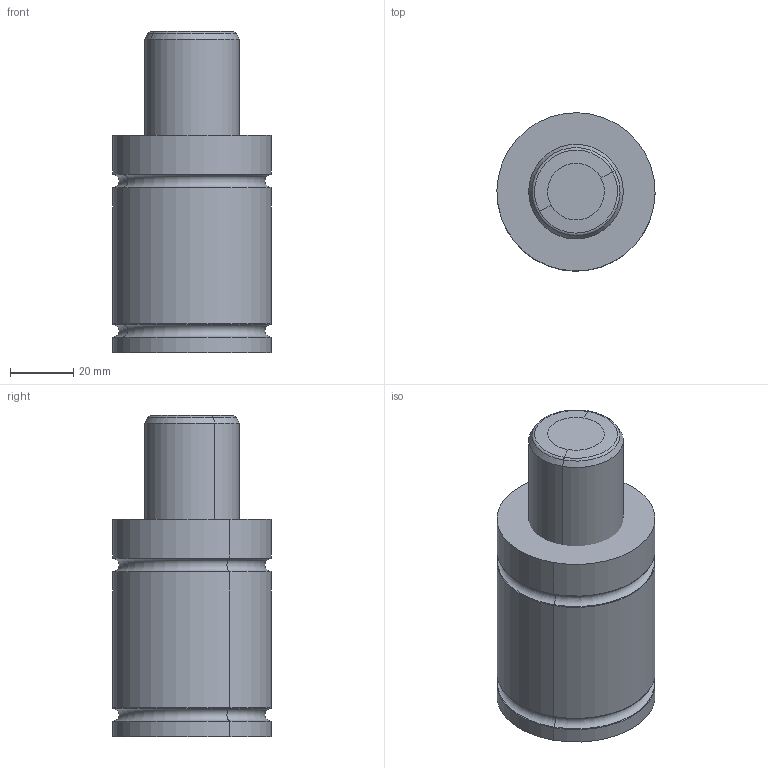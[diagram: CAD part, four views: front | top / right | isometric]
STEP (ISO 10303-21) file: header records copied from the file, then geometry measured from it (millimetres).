
FILE_DESCRIPTION(('CATIA V5 STEP Exchange'),'2;1');
FILE_NAME('W:\CATALOGO GENERAL 2018\FICHEROS CAD\001-MICRO\MICRO 50V\MICRO 50Vx32.stp','2017-10-26T10:42:31+00:00',('none'),('none'),'CATIA Version 5 Release 17 (IN-10)','CATIA V5 STEP AP203','none');
FILE_SCHEMA(('CONFIG_CONTROL_DESIGN'));
Length unit declared in the file: millimetre
Products named in the file (1): MICRO50Vx32
Assembly tree (2 placements, depth 2):
  MICRO50Vx32
    #56
    #808
Bounding box: 50.19 x 50.19 x 102 mm (x, y, z)
Volume: 163295.6 mm3; surface area: 24130.7 mm2
Topology: 2 solids, 2 shells, 68 faces, 132 edges, 74 vertices
Faces by surface type: torus 22, cylinder 20, cone 16, plane 10
Entity records: 1595 total; most frequent: ORIENTED_EDGE 264, CARTESIAN_POINT 252, DIRECTION 224, AXIS2_PLACEMENT_3D 142, EDGE_CURVE 132, CIRCLE 96, EDGE_LOOP 74, VERTEX_POINT 74
